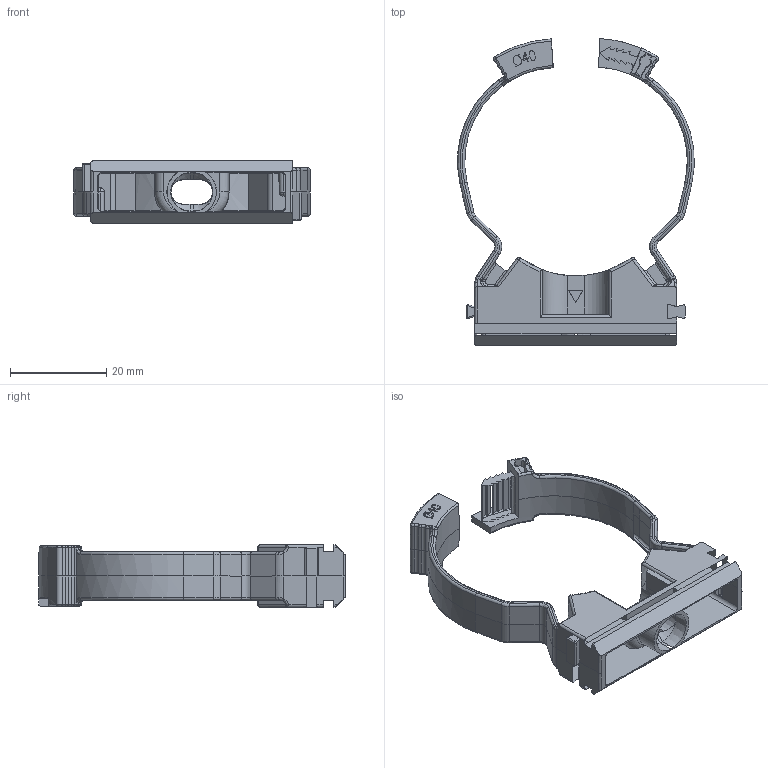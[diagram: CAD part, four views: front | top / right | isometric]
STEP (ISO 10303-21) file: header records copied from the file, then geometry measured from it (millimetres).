
FILE_DESCRIPTION(/* description */ (''),/* implementation_level */ '2;1');
FILE_NAME(/* name */ '4007006.stp',/* time_stamp */ '2016-09-28T20:21:34+02:00',/* author */ (''),/* organization */ (''),/* preprocessor_version */ 'ST-DEVELOPER v16',/* originating_system */ 'SIEMENS PLM Software NX 11.0',/* authorisation */ '');
FILE_SCHEMA (('AUTOMOTIVE_DESIGN { 1 0 10303 214 3 1 1 1 }'));
Length unit declared in the file: millimetre
Products named in the file (1): 4007006_LINKEDEXT_jt
Bounding box: 49.12 x 63.71 x 13 mm (x, y, z)
Surface area: 7057.5 mm2 (no closed solid volume)
Topology: 0 solids, 6 shells, 440 faces, 1326 edges, 838 vertices
Faces by surface type: cylinder 126, plane 124, bspline 102, cone 38, torus 27, sphere 12, revolution 8, extrusion 3
Entity records: 16872 total; most frequent: CARTESIAN_POINT 5646, DIRECTION 2316, ORIENTED_EDGE 2247, EDGE_CURVE 1306, AXIS2_PLACEMENT_3D 872, VERTEX_POINT 838, VECTOR 564, LINE 561
